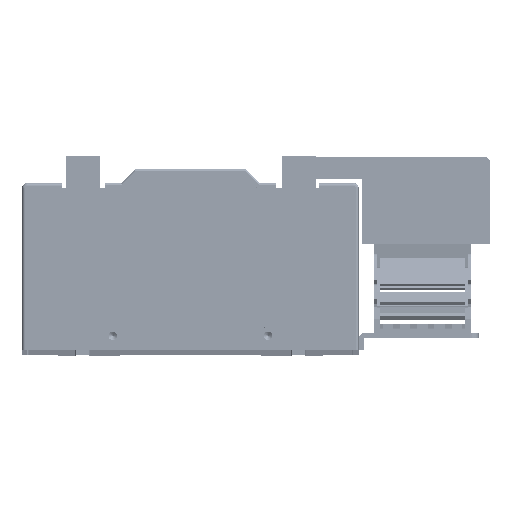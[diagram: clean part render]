
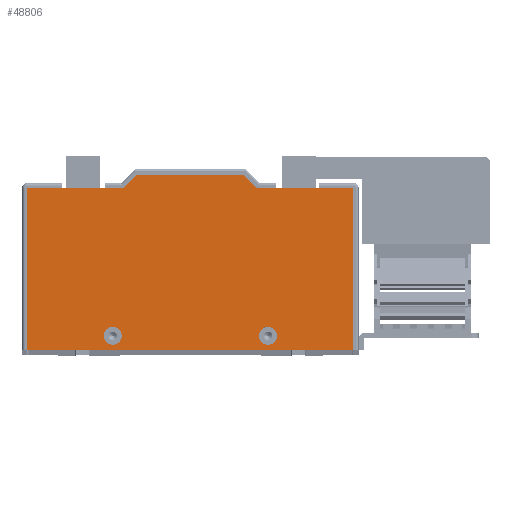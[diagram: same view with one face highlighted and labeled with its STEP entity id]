
A CAD part, top view. The second image highlights one B-rep face of the part: STEP entity #48806.
In plain terms, the highlighted planar face has unit normal (0, 0, 1) as drawn and (0, 0, -1) by its records, which use the part's own axes.
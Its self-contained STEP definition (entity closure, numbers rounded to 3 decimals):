
#11527 = CARTESIAN_POINT ( 'NONE',  ( -40.191, 76.299, 0. ) ) ;
#11614 = DIRECTION ( 'NONE',  ( -1., 0., 0. ) ) ;
#11616 = DIRECTION ( 'NONE',  ( 0., 0., -1. ) ) ;
#11618 = CARTESIAN_POINT ( 'NONE',  ( -34.941, 76.299, 0. ) ) ;
#11619 = AXIS2_PLACEMENT_3D ( 'NONE', #11618, #11616, #11614 ) ;
#11620 = CIRCLE ( 'NONE', #11619, 5.25 ) ;
#13811 = CARTESIAN_POINT ( 'NONE',  ( -29.691, 76.299, 0. ) ) ;
#16917 = CARTESIAN_POINT ( 'NONE',  ( -130.691, 76.299, 0. ) ) ;
#16952 = DIRECTION ( 'NONE',  ( -1., 0., 0. ) ) ;
#16954 = DIRECTION ( 'NONE',  ( 0., 0., -1. ) ) ;
#16955 = CARTESIAN_POINT ( 'NONE',  ( -125.441, 76.299, 0. ) ) ;
#16957 = AXIS2_PLACEMENT_3D ( 'NONE', #16955, #16954, #16952 ) ;
#16959 = CIRCLE ( 'NONE', #16957, 5.25 ) ;
#17110 = CARTESIAN_POINT ( 'NONE',  ( -120.191, 76.299, 0. ) ) ;
#17845 = CARTESIAN_POINT ( 'NONE',  ( 14.809, -9.701, 0. ) ) ;
#18324 = DIRECTION ( 'NONE',  ( 0., -1., 0. ) ) ;
#18326 = VECTOR ( 'NONE', #18324, 1000. ) ;
#18327 = CARTESIAN_POINT ( 'NONE',  ( 14.809, 84.299, 0. ) ) ;
#18329 = LINE ( 'NONE', #18327, #18326 ) ;
#48148 = ORIENTED_EDGE ( 'NONE', *, *, #49181, .T. ) ;
#48191 = EDGE_CURVE ( 'NONE', #49134, #48242, #125677, .T. ) ;
#48216 = ORIENTED_EDGE ( 'NONE', *, *, #48240, .F. ) ;
#48219 = VERTEX_POINT ( 'NONE', #125718 ) ;
#48220 = ORIENTED_EDGE ( 'NONE', *, *, #49214, .T. ) ;
#48224 = ORIENTED_EDGE ( 'NONE', *, *, #48191, .F. ) ;
#48226 = EDGE_CURVE ( 'NONE', #48242, #49095, #125704, .T. ) ;
#48235 = ORIENTED_EDGE ( 'NONE', *, *, #48226, .F. ) ;
#48240 = EDGE_CURVE ( 'NONE', #49083, #48219, #125795, .T. ) ;
#48242 = VERTEX_POINT ( 'NONE', #125790 ) ;
#48256 = ORIENTED_EDGE ( 'NONE', *, *, #96815, .F. ) ;
#48277 = EDGE_CURVE ( 'NONE', #48219, #98466, #125940, .T. ) ;
#48279 = ORIENTED_EDGE ( 'NONE', *, *, #98613, .T. ) ;
#48285 = EDGE_LOOP ( 'NONE', ( #48279, #48291, #48216, #48220, #48235, #48224, #48148, #49140 ) ) ;
#48291 = ORIENTED_EDGE ( 'NONE', *, *, #48277, .F. ) ;
#48339 = EDGE_CURVE ( 'NONE', #96801, #97429, #126141, .T. ) ;
#48363 = EDGE_LOOP ( 'NONE', ( #48378, #48256 ) ) ;
#48378 = ORIENTED_EDGE ( 'NONE', *, *, #48339, .F. ) ;
#48443 = ORIENTED_EDGE ( 'NONE', *, *, #98192, .F. ) ;
#48464 = ORIENTED_EDGE ( 'NONE', *, *, #48506, .F. ) ;
#48506 = EDGE_CURVE ( 'NONE', #98201, #98235, #126687, .T. ) ;
#48544 = EDGE_LOOP ( 'NONE', ( #48464, #48443 ) ) ;
#48806 = ADVANCED_FACE ( 'NONE', ( #127907, #127905, #127903 ), #127896, .F. ) ;
#48940 = EDGE_CURVE ( 'NONE', #49060, #49165, #128570, .T. ) ;
#49060 = VERTEX_POINT ( 'NONE', #128922 ) ;
#49083 = VERTEX_POINT ( 'NONE', #128989 ) ;
#49095 = VERTEX_POINT ( 'NONE', #129110 ) ;
#49134 = VERTEX_POINT ( 'NONE', #129296 ) ;
#49140 = ORIENTED_EDGE ( 'NONE', *, *, #48940, .T. ) ;
#49165 = VERTEX_POINT ( 'NONE', #129484 ) ;
#49181 = EDGE_CURVE ( 'NONE', #49134, #49060, #129568, .T. ) ;
#49214 = EDGE_CURVE ( 'NONE', #49083, #49095, #129732, .T. ) ;
#96801 = VERTEX_POINT ( 'NONE', #11527 ) ;
#96815 = EDGE_CURVE ( 'NONE', #97429, #96801, #11620, .T. ) ;
#97429 = VERTEX_POINT ( 'NONE', #13811 ) ;
#98192 = EDGE_CURVE ( 'NONE', #98235, #98201, #16959, .T. ) ;
#98201 = VERTEX_POINT ( 'NONE', #16917 ) ;
#98235 = VERTEX_POINT ( 'NONE', #17110 ) ;
#98466 = VERTEX_POINT ( 'NONE', #17845 ) ;
#98613 = EDGE_CURVE ( 'NONE', #49165, #98466, #18329, .T. ) ;
#125671 = DIRECTION ( 'NONE',  ( 1., 0., 0. ) ) ;
#125673 = VECTOR ( 'NONE', #125671, 1000. ) ;
#125675 = CARTESIAN_POINT ( 'NONE',  ( -119.191, -9.701, 0. ) ) ;
#125677 = LINE ( 'NONE', #125675, #125673 ) ;
#125700 = DIRECTION ( 'NONE',  ( 0.707, -0.707, 0. ) ) ;
#125702 = VECTOR ( 'NONE', #125700, 1000. ) ;
#125703 = CARTESIAN_POINT ( 'NONE',  ( -111.191, -17.701, 0. ) ) ;
#125704 = LINE ( 'NONE', #125703, #125702 ) ;
#125718 = CARTESIAN_POINT ( 'NONE',  ( -41.191, -9.701, 0. ) ) ;
#125790 = CARTESIAN_POINT ( 'NONE',  ( -119.191, -9.701, 0. ) ) ;
#125791 = DIRECTION ( 'NONE',  ( 0.707, 0.707, 0. ) ) ;
#125793 = VECTOR ( 'NONE', #125791, 1000. ) ;
#125794 = CARTESIAN_POINT ( 'NONE',  ( -41.191, -9.701, 0. ) ) ;
#125795 = LINE ( 'NONE', #125794, #125793 ) ;
#125934 = DIRECTION ( 'NONE',  ( 1., 0., 0. ) ) ;
#125936 = VECTOR ( 'NONE', #125934, 1000. ) ;
#125938 = CARTESIAN_POINT ( 'NONE',  ( 14.809, -9.701, 0. ) ) ;
#125940 = LINE ( 'NONE', #125938, #125936 ) ;
#126137 = DIRECTION ( 'NONE',  ( -1., 0., 0. ) ) ;
#126138 = DIRECTION ( 'NONE',  ( 0., 0., -1. ) ) ;
#126139 = CARTESIAN_POINT ( 'NONE',  ( -34.941, 76.299, 0. ) ) ;
#126140 = AXIS2_PLACEMENT_3D ( 'NONE', #126139, #126138, #126137 ) ;
#126141 = CIRCLE ( 'NONE', #126140, 5.25 ) ;
#126680 = DIRECTION ( 'NONE',  ( -1., 0., 0. ) ) ;
#126681 = DIRECTION ( 'NONE',  ( 0., 0., -1. ) ) ;
#126683 = CARTESIAN_POINT ( 'NONE',  ( -125.441, 76.299, 0. ) ) ;
#126685 = AXIS2_PLACEMENT_3D ( 'NONE', #126683, #126681, #126680 ) ;
#126687 = CIRCLE ( 'NONE', #126685, 5.25 ) ;
#127886 = DIRECTION ( 'NONE',  ( 1., 0., 0. ) ) ;
#127888 = DIRECTION ( 'NONE',  ( 0., 0., 1. ) ) ;
#127891 = CARTESIAN_POINT ( 'NONE',  ( -175.191, 84.299, 0. ) ) ;
#127893 = AXIS2_PLACEMENT_3D ( 'NONE', #127891, #127888, #127886 ) ;
#127896 = PLANE ( 'NONE',  #127893 ) ;
#127903 = FACE_OUTER_BOUND ( 'NONE', #48285, .T. ) ;
#127905 = FACE_BOUND ( 'NONE', #48363, .T. ) ;
#127907 = FACE_BOUND ( 'NONE', #48544, .T. ) ;
#128550 = DIRECTION ( 'NONE',  ( 1., 0., 0. ) ) ;
#128553 = VECTOR ( 'NONE', #128550, 1000. ) ;
#128555 = CARTESIAN_POINT ( 'NONE',  ( -175.191, 84.299, 0. ) ) ;
#128570 = LINE ( 'NONE', #128555, #128553 ) ;
#128922 = CARTESIAN_POINT ( 'NONE',  ( -175.191, 84.299, 0. ) ) ;
#128989 = CARTESIAN_POINT ( 'NONE',  ( -49.191, -17.701, 0. ) ) ;
#129110 = CARTESIAN_POINT ( 'NONE',  ( -111.191, -17.701, 0. ) ) ;
#129296 = CARTESIAN_POINT ( 'NONE',  ( -175.191, -9.701, 0. ) ) ;
#129484 = CARTESIAN_POINT ( 'NONE',  ( 14.809, 84.299, 0. ) ) ;
#129563 = DIRECTION ( 'NONE',  ( 0., 1., 0. ) ) ;
#129566 = VECTOR ( 'NONE', #129563, 1000. ) ;
#129567 = CARTESIAN_POINT ( 'NONE',  ( -175.191, -17.701, 0. ) ) ;
#129568 = LINE ( 'NONE', #129567, #129566 ) ;
#129727 = DIRECTION ( 'NONE',  ( -1., 0., 0. ) ) ;
#129729 = VECTOR ( 'NONE', #129727, 1000. ) ;
#129731 = CARTESIAN_POINT ( 'NONE',  ( 14.809, -17.701, 0. ) ) ;
#129732 = LINE ( 'NONE', #129731, #129729 ) ;
